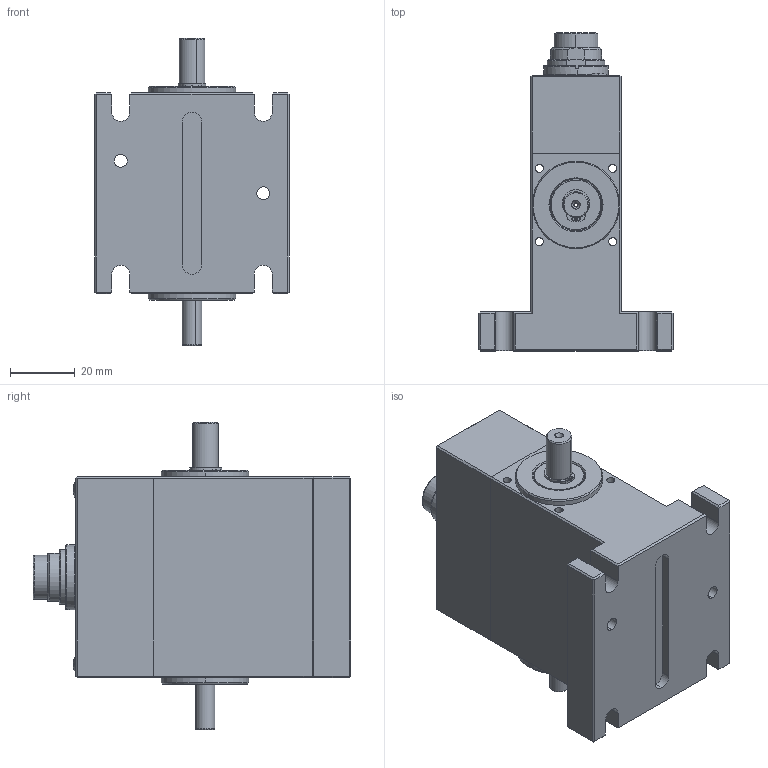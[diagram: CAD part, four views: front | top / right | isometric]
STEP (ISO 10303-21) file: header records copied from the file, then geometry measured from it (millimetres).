
FILE_DESCRIPTION (( 'STEP AP214' ), '1' );
FILE_NAME ('DRVL-I-2-F.STEP', '2023-01-31T12:51:42', ( '' ), ( '' ), 'SwSTEP 2.0', 'SolidWorks 2023', '' );
FILE_SCHEMA (( 'AUTOMOTIVE_DESIGN' ));
Length unit declared in the file: millimetre
Products named in the file (1): DRVL-I-2-F
Bounding box: 60 x 98.1 x 95 mm (x, y, z)
Surface area: 28252.5 mm2 (no closed solid volume)
Topology: 0 solids, 16 shells, 345 faces, 917 edges, 587 vertices
Faces by surface type: plane 144, cylinder 108, cone 48, torus 39, sphere 6
Entity records: 14569 total; most frequent: DIRECTION 2010, CARTESIAN_POINT 1997, ORIENTED_EDGE 1608, EDGE_CURVE 917, AXIS2_PLACEMENT_3D 779, VERTEX_POINT 587, LINE 452, VECTOR 452
